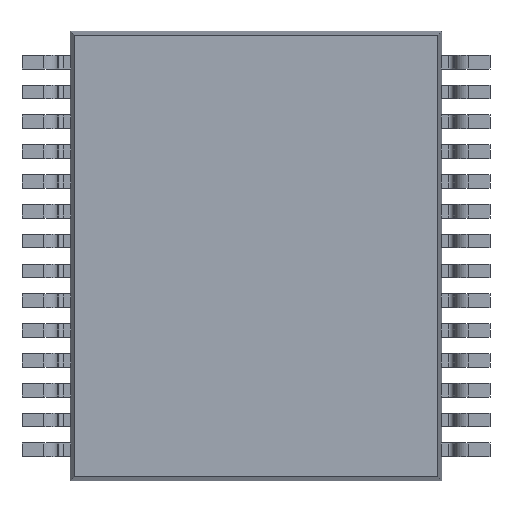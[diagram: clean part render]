
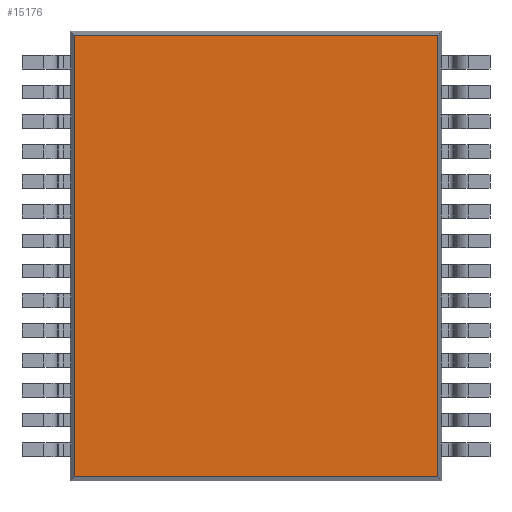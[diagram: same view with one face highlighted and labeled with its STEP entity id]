
A CAD part, front view. The second image highlights one B-rep face of the part: STEP entity #15176.
In plain terms, the highlighted planar face has unit normal (0, -1, 0).
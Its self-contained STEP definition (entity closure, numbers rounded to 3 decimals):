
#1739 = CARTESIAN_POINT ( 'NONE',  ( 3.966, 0.1, 4.9 ) ) ;
#1740 = DIRECTION ( 'NONE',  ( 0., 0., 1. ) ) ;
#1755 = CARTESIAN_POINT ( 'NONE',  ( -3.966, 0.1, 4.9 ) ) ;
#1756 = DIRECTION ( 'NONE',  ( 0., 0., -1. ) ) ;
#2249 = CARTESIAN_POINT ( 'NONE',  ( 4.05, 0.1, 4.816 ) ) ;
#2250 = DIRECTION ( 'NONE',  ( -1., 0., 0. ) ) ;
#2254 = CARTESIAN_POINT ( 'NONE',  ( 4.05, 0.1, -4.816 ) ) ;
#2258 = DIRECTION ( 'NONE',  ( 1., 0., 0. ) ) ;
#2978 = LINE ( 'NONE', #2254, #2987 ) ;
#2983 = LINE ( 'NONE', #2249, #2985 ) ;
#2985 = VECTOR ( 'NONE', #2250, 1000. ) ;
#2987 = VECTOR ( 'NONE', #2258, 1000. ) ;
#3081 = LINE ( 'NONE', #1739, #3084 ) ;
#3084 = VECTOR ( 'NONE', #1740, 1000. ) ;
#3097 = LINE ( 'NONE', #1755, #3100 ) ;
#3100 = VECTOR ( 'NONE', #1756, 1000. ) ;
#4004 = EDGE_CURVE ( 'NONE', #14877, #14882, #2983, .T. ) ;
#4005 = EDGE_CURVE ( 'NONE', #14884, #14873, #2978, .T. ) ;
#4054 = EDGE_CURVE ( 'NONE', #14873, #14877, #3081, .T. ) ;
#4062 = EDGE_CURVE ( 'NONE', #14882, #14884, #3097, .T. ) ;
#7656 = CARTESIAN_POINT ( 'NONE',  ( 3.966, 0.1, -4.816 ) ) ;
#7660 = CARTESIAN_POINT ( 'NONE',  ( 3.966, 0.1, 4.816 ) ) ;
#7665 = CARTESIAN_POINT ( 'NONE',  ( -3.966, 0.1, 4.816 ) ) ;
#7667 = CARTESIAN_POINT ( 'NONE',  ( -3.966, 0.1, -4.816 ) ) ;
#10893 = ORIENTED_EDGE ( 'NONE', *, *, #4062, .T. ) ;
#10894 = ORIENTED_EDGE ( 'NONE', *, *, #4005, .T. ) ;
#10895 = ORIENTED_EDGE ( 'NONE', *, *, #4054, .T. ) ;
#10896 = ORIENTED_EDGE ( 'NONE', *, *, #4004, .T. ) ;
#11578 = EDGE_LOOP ( 'NONE', ( #10893, #10894, #10895, #10896 ) ) ;
#14873 = VERTEX_POINT ( 'NONE', #7656 ) ;
#14877 = VERTEX_POINT ( 'NONE', #7660 ) ;
#14882 = VERTEX_POINT ( 'NONE', #7665 ) ;
#14884 = VERTEX_POINT ( 'NONE', #7667 ) ;
#15176 = ADVANCED_FACE ( 'NONE', ( #15995 ), #15338, .F. ) ;
#15329 = CARTESIAN_POINT ( 'NONE',  ( 0., 0.1, 0. ) ) ;
#15338 = PLANE ( 'NONE',  #16517 ) ;
#15340 = DIRECTION ( 'NONE',  ( 0., 1., 0. ) ) ;
#15341 = DIRECTION ( 'NONE',  ( 0., 0., 1. ) ) ;
#15995 = FACE_OUTER_BOUND ( 'NONE', #11578, .T. ) ;
#16517 = AXIS2_PLACEMENT_3D ( 'NONE', #15329, #15340, #15341 ) ;
